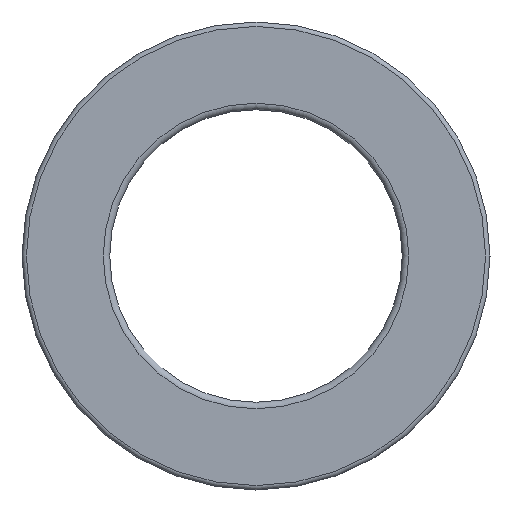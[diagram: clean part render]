
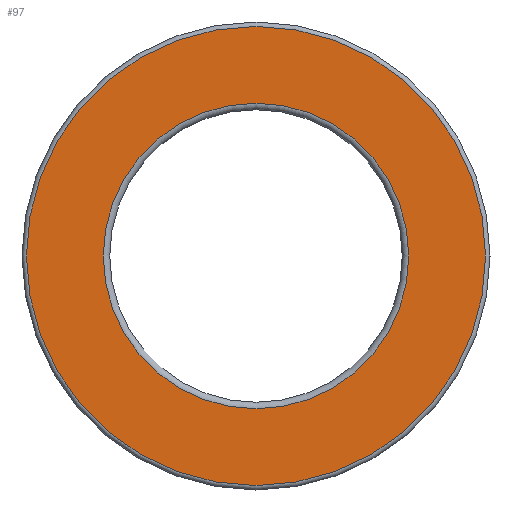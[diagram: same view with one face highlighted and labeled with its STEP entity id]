
A CAD part, left-side view. The second image highlights one B-rep face of the part: STEP entity #97.
In plain terms, the highlighted planar face has unit normal (-1, 0, 0).
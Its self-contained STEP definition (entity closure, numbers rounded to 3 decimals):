
#97=ADVANCED_FACE('',(#166,#167),#168,.F.);
#166=FACE_BOUND('',#238,.T.);
#167=FACE_OUTER_BOUND('',#239,.T.);
#168=PLANE('',#240);
#238=EDGE_LOOP('',(#354));
#239=EDGE_LOOP('',(#355));
#240=AXIS2_PLACEMENT_3D('',#356,#357,#358);
#354=ORIENTED_EDGE('',*,*,#386,.F.);
#355=ORIENTED_EDGE('',*,*,#387,.T.);
#356=CARTESIAN_POINT('',(0.0,19.619,0.0));
#357=DIRECTION('',(1.0,0.0,0.0));
#358=DIRECTION('',(0.0,0.0,-1.0));
#386=EDGE_CURVE('',#432,#432,#433,.T.);
#387=EDGE_CURVE('',#434,#434,#435,.T.);
#432=VERTEX_POINT('',#480);
#433=CIRCLE('',#481,13.058);
#434=VERTEX_POINT('',#482);
#435=CIRCLE('',#483,19.619);
#480=CARTESIAN_POINT('',(0.0,0.0,13.058));
#481=AXIS2_PLACEMENT_3D('',#550,#551,#552);
#482=CARTESIAN_POINT('',(0.0,0.0,19.619));
#483=AXIS2_PLACEMENT_3D('',#553,#554,#555);
#550=CARTESIAN_POINT('',(0.0,0.0,0.0));
#551=DIRECTION('',(-1.0,0.0,0.0));
#552=DIRECTION('',(0.0,0.0,1.0));
#553=CARTESIAN_POINT('',(0.0,0.0,0.0));
#554=DIRECTION('',(-1.0,0.0,0.0));
#555=DIRECTION('',(0.0,0.0,1.0));
